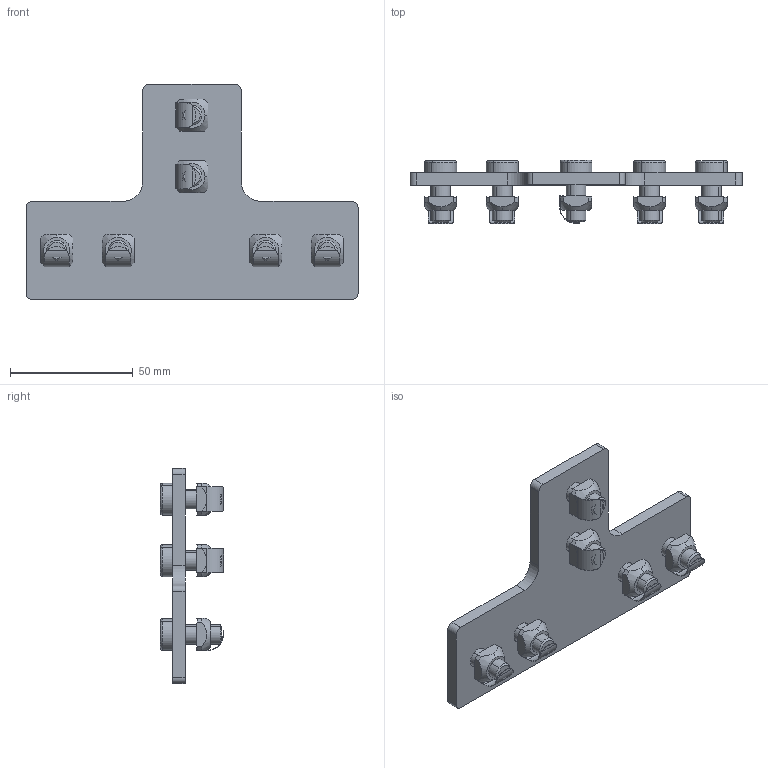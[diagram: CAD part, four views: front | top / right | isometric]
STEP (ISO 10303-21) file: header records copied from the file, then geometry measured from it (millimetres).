
FILE_DESCRIPTION (( 'STEP AP214' ), '1' );
FILE_NAME ('1.3074 T-yhdistämislevy.STEP', '2025-09-08T09:03:41', ( '' ), ( '' ), 'SwSTEP 2.0', 'SolidWorks 2025', '' );
FILE_SCHEMA (( 'AUTOMOTIVE_DESIGN' ));
Length unit declared in the file: millimetre
Products named in the file (1): 1.3074 T-yhdistämislevy
Bounding box: 135 x 25.65 x 87.5 mm (x, y, z)
Surface area: 25608.8 mm2 (no closed solid volume)
Topology: 0 solids, 19 shells, 261 faces, 752 edges, 508 vertices
Faces by surface type: plane 151, cylinder 66, cone 32, torus 12
Entity records: 11927 total; most frequent: CARTESIAN_POINT 2350, DIRECTION 1372, ORIENTED_EDGE 1290, EDGE_CURVE 752, VERTEX_POINT 508, AXIS2_PLACEMENT_3D 466, LINE 440, VECTOR 440
